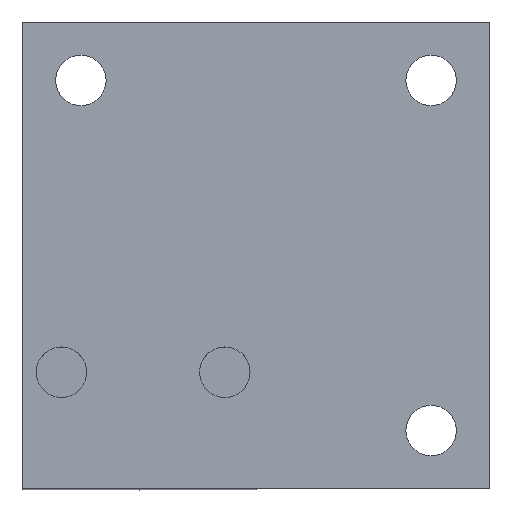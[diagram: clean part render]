
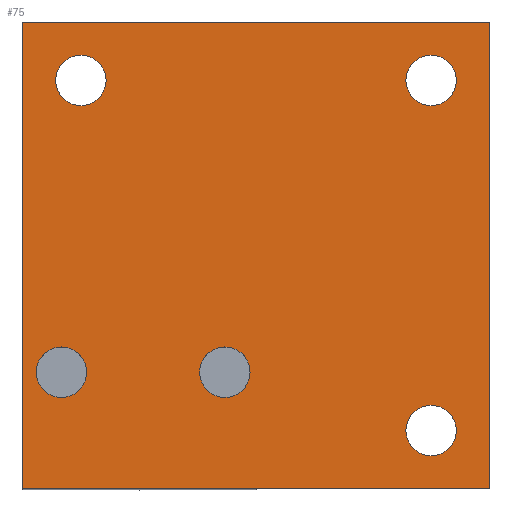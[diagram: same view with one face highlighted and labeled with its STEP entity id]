
A CAD part, top view. The second image highlights one B-rep face of the part: STEP entity #75.
In plain terms, the highlighted planar face has unit normal (0, 0, 1).
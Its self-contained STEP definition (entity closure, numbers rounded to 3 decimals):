
#75 = ADVANCED_FACE( '', ( #153, #154, #155, #156, #157, #158 ), #159, .T. );
#153 = FACE_BOUND( '', #237, .T. );
#154 = FACE_BOUND( '', #238, .T. );
#155 = FACE_OUTER_BOUND( '', #239, .T. );
#156 = FACE_BOUND( '', #240, .T. );
#157 = FACE_BOUND( '', #241, .T. );
#158 = FACE_BOUND( '', #242, .T. );
#159 = PLANE( '', #243 );
#237 = EDGE_LOOP( '', ( #377 ) );
#238 = EDGE_LOOP( '', ( #378 ) );
#239 = EDGE_LOOP( '', ( #379, #380, #381, #382 ) );
#240 = EDGE_LOOP( '', ( #383 ) );
#241 = EDGE_LOOP( '', ( #384 ) );
#242 = EDGE_LOOP( '', ( #385 ) );
#243 = AXIS2_PLACEMENT_3D( '', #386, #387, #388 );
#377 = ORIENTED_EDGE( '', *, *, #441, .F. );
#378 = ORIENTED_EDGE( '', *, *, #447, .F. );
#379 = ORIENTED_EDGE( '', *, *, #459, .T. );
#380 = ORIENTED_EDGE( '', *, *, #470, .T. );
#381 = ORIENTED_EDGE( '', *, *, #430, .T. );
#382 = ORIENTED_EDGE( '', *, *, #479, .T. );
#383 = ORIENTED_EDGE( '', *, *, #480, .F. );
#384 = ORIENTED_EDGE( '', *, *, #436, .F. );
#385 = ORIENTED_EDGE( '', *, *, #481, .F. );
#386 = CARTESIAN_POINT( '', ( 0., 0., 0. ) );
#387 = DIRECTION( '', ( 0., 0., 1. ) );
#388 = DIRECTION( '', ( 1., 0., 0. ) );
#430 = EDGE_CURVE( '', #491, #492, #493, .T. );
#436 = EDGE_CURVE( '', #502, #502, #503, .T. );
#441 = EDGE_CURVE( '', #510, #510, #511, .T. );
#447 = EDGE_CURVE( '', #520, #520, #521, .T. );
#459 = EDGE_CURVE( '', #540, #538, #541, .T. );
#470 = EDGE_CURVE( '', #538, #491, #556, .T. );
#479 = EDGE_CURVE( '', #492, #540, #565, .T. );
#480 = EDGE_CURVE( '', #566, #566, #567, .T. );
#481 = EDGE_CURVE( '', #568, #568, #569, .T. );
#491 = VERTEX_POINT( '', #581 );
#492 = VERTEX_POINT( '', #582 );
#493 = LINE( '', #583, #584 );
#502 = VERTEX_POINT( '', #596 );
#503 = CIRCLE( '', #597, 3.24 );
#510 = VERTEX_POINT( '', #604 );
#511 = CIRCLE( '', #605, 3.24 );
#520 = VERTEX_POINT( '', #616 );
#521 = CIRCLE( '', #617, 3.24 );
#538 = VERTEX_POINT( '', #640 );
#540 = VERTEX_POINT( '', #643 );
#541 = LINE( '', #644, #645 );
#556 = LINE( '', #665, #666 );
#565 = LINE( '', #678, #679 );
#566 = VERTEX_POINT( '', #680 );
#567 = CIRCLE( '', #681, 3.24 );
#568 = VERTEX_POINT( '', #682 );
#569 = CIRCLE( '', #683, 3.24 );
#581 = CARTESIAN_POINT( '', ( 7.5, -52.5, 0. ) );
#582 = CARTESIAN_POINT( '', ( 7.5, 7.5, 0. ) );
#583 = CARTESIAN_POINT( '', ( 7.5, -52.5, 0. ) );
#584 = VECTOR( '', #695, 1000. );
#596 = CARTESIAN_POINT( '', ( 3.24, -45., 0. ) );
#597 = AXIS2_PLACEMENT_3D( '', #702, #703, #704 );
#604 = CARTESIAN_POINT( '', ( -23.26, -37.5, 0. ) );
#605 = AXIS2_PLACEMENT_3D( '', #711, #712, #713 );
#616 = CARTESIAN_POINT( '', ( -44.26, -37.5, 0. ) );
#617 = AXIS2_PLACEMENT_3D( '', #719, #720, #721 );
#640 = CARTESIAN_POINT( '', ( -52.5, -52.5, 0. ) );
#643 = CARTESIAN_POINT( '', ( -52.5, 7.5, 0. ) );
#644 = CARTESIAN_POINT( '', ( -52.5, 7.5, 0. ) );
#645 = VECTOR( '', #732, 1000. );
#665 = CARTESIAN_POINT( '', ( -52.5, -52.5, 0. ) );
#666 = VECTOR( '', #744, 1000. );
#678 = CARTESIAN_POINT( '', ( 7.5, 7.5, 0. ) );
#679 = VECTOR( '', #751, 1000. );
#680 = CARTESIAN_POINT( '', ( -41.76, 0., 0. ) );
#681 = AXIS2_PLACEMENT_3D( '', #752, #753, #754 );
#682 = CARTESIAN_POINT( '', ( 3.24, 0., 0. ) );
#683 = AXIS2_PLACEMENT_3D( '', #755, #756, #757 );
#695 = DIRECTION( '', ( 0., 1., 0. ) );
#702 = CARTESIAN_POINT( '', ( 0., -45., 0. ) );
#703 = DIRECTION( '', ( 0., 0., 1. ) );
#704 = DIRECTION( '', ( 1., 0., 0. ) );
#711 = CARTESIAN_POINT( '', ( -26.5, -37.5, 0. ) );
#712 = DIRECTION( '', ( 0., 0., 1. ) );
#713 = DIRECTION( '', ( 1., 0., 0. ) );
#719 = CARTESIAN_POINT( '', ( -47.5, -37.5, 0. ) );
#720 = DIRECTION( '', ( 0., 0., 1. ) );
#721 = DIRECTION( '', ( 1., 0., 0. ) );
#732 = DIRECTION( '', ( 0., -1., 0. ) );
#744 = DIRECTION( '', ( 1., 0., 0. ) );
#751 = DIRECTION( '', ( -1., 0., 0. ) );
#752 = CARTESIAN_POINT( '', ( -45., 0., 0. ) );
#753 = DIRECTION( '', ( 0., 0., 1. ) );
#754 = DIRECTION( '', ( 1., 0., 0. ) );
#755 = CARTESIAN_POINT( '', ( 0., 0., 0. ) );
#756 = DIRECTION( '', ( 0., 0., 1. ) );
#757 = DIRECTION( '', ( 1., 0., 0. ) );
